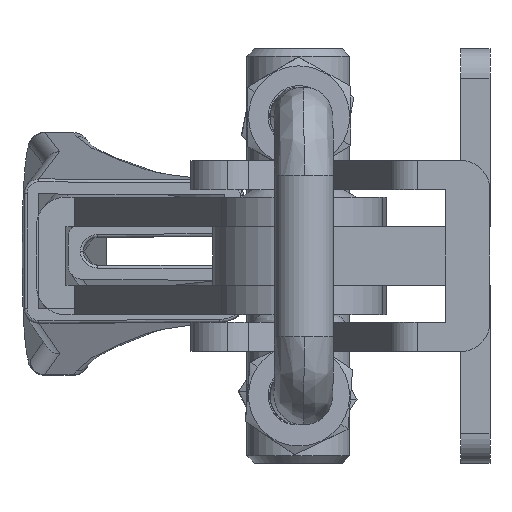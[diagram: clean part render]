
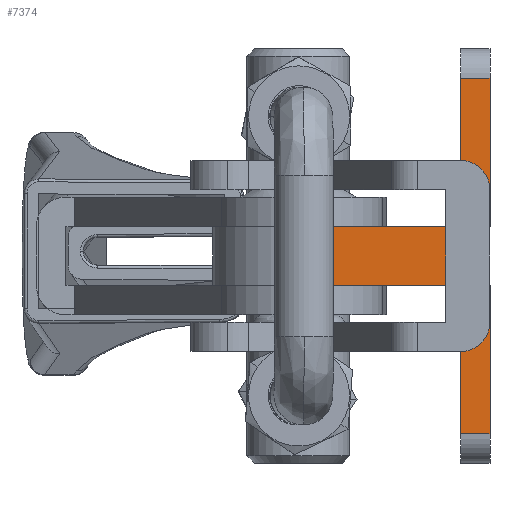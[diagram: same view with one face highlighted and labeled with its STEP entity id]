
A CAD part, left-side view. The second image highlights one B-rep face of the part: STEP entity #7374.
In plain terms, the highlighted planar face has unit normal (-1, 0, 0).
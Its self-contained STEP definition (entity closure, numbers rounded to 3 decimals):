
#178 = VERTEX_POINT ( 'NONE', #21883 ) ;
#408 = ORIENTED_EDGE ( 'NONE', *, *, #6360, .F. ) ;
#445 = VERTEX_POINT ( 'NONE', #19654 ) ;
#457 = VECTOR ( 'NONE', #21655, 1000. ) ;
#901 = VECTOR ( 'NONE', #10099, 1000. ) ;
#2187 = DIRECTION ( 'NONE',  ( 0., 1., 0. ) ) ;
#2330 = EDGE_CURVE ( 'NONE', #12929, #6125, #19856, .T. ) ;
#2575 = AXIS2_PLACEMENT_3D ( 'NONE', #21612, #12839, #9221 ) ;
#2675 = VERTEX_POINT ( 'NONE', #6945 ) ;
#2874 = DIRECTION ( 'NONE',  ( 0., 0., 1. ) ) ;
#2942 = EDGE_LOOP ( 'NONE', ( #12616, #13196, #18540, #12973, #408, #3047, #16563, #21558, #10386, #22818, #22796 ) ) ;
#2973 = EDGE_CURVE ( 'NONE', #12728, #13335, #5547, .T. ) ;
#3047 = ORIENTED_EDGE ( 'NONE', *, *, #5540, .F. ) ;
#3115 = EDGE_CURVE ( 'NONE', #19873, #2675, #15764, .T. ) ;
#3417 = LINE ( 'NONE', #4728, #901 ) ;
#4050 = AXIS2_PLACEMENT_3D ( 'NONE', #16869, #22452, #22217 ) ;
#4691 = DIRECTION ( 'NONE',  ( 0., 1., 0. ) ) ;
#4728 = CARTESIAN_POINT ( 'NONE',  ( 73.94, -1438.42, 2. ) ) ;
#5540 = EDGE_CURVE ( 'NONE', #178, #20322, #9424, .T. ) ;
#5547 = LINE ( 'NONE', #16634, #17706 ) ;
#5631 = VECTOR ( 'NONE', #7210, 1000. ) ;
#5726 = DIRECTION ( 'NONE',  ( 0., -1., 0. ) ) ;
#6033 = DIRECTION ( 'NONE',  ( 0., 0., 1. ) ) ;
#6125 = VERTEX_POINT ( 'NONE', #18320 ) ;
#6139 = LINE ( 'NONE', #8883, #457 ) ;
#6360 = EDGE_CURVE ( 'NONE', #20322, #12728, #15058, .T. ) ;
#6945 = CARTESIAN_POINT ( 'NONE',  ( 73.94, -1436.42, 0. ) ) ;
#7114 = FACE_OUTER_BOUND ( 'NONE', #2942, .T. ) ;
#7210 = DIRECTION ( 'NONE',  ( 0., 0., 1. ) ) ;
#7374 = ADVANCED_FACE ( 'NONE', ( #7114 ), #7998, .F. ) ;
#7420 = CARTESIAN_POINT ( 'NONE',  ( 73.94, -1436.42, -2. ) ) ;
#7433 = CARTESIAN_POINT ( 'NONE',  ( 73.94, -1438.42, -2. ) ) ;
#7566 = EDGE_CURVE ( 'NONE', #19873, #13335, #3417, .T. ) ;
#7998 = PLANE ( 'NONE',  #14390 ) ;
#8076 = DIRECTION ( 'NONE',  ( 0., -1., 0. ) ) ;
#8582 = VECTOR ( 'NONE', #8076, 1000. ) ;
#8600 = EDGE_CURVE ( 'NONE', #2675, #445, #15269, .T. ) ;
#8883 = CARTESIAN_POINT ( 'NONE',  ( 73.94, -1436.42, -14.1 ) ) ;
#9221 = DIRECTION ( 'NONE',  ( 0., 0., -1. ) ) ;
#9424 = LINE ( 'NONE', #19031, #8582 ) ;
#9648 = CARTESIAN_POINT ( 'NONE',  ( 73.94, -1438.42, -2. ) ) ;
#10099 = DIRECTION ( 'NONE',  ( 0., 0., 1. ) ) ;
#10237 = VECTOR ( 'NONE', #2874, 1000. ) ;
#10386 = ORIENTED_EDGE ( 'NONE', *, *, #12794, .F. ) ;
#10984 = CARTESIAN_POINT ( 'NONE',  ( 73.94, -1438.42, -12.1 ) ) ;
#11730 = CARTESIAN_POINT ( 'NONE',  ( 73.94, -1436.42, 2. ) ) ;
#12219 = VERTEX_POINT ( 'NONE', #13310 ) ;
#12329 = CARTESIAN_POINT ( 'NONE',  ( 73.94, -1438.42, -2. ) ) ;
#12473 = CARTESIAN_POINT ( 'NONE',  ( 73.94, -1438.42, 2. ) ) ;
#12616 = ORIENTED_EDGE ( 'NONE', *, *, #8600, .F. ) ;
#12728 = VERTEX_POINT ( 'NONE', #21050 ) ;
#12794 = EDGE_CURVE ( 'NONE', #6125, #21722, #6139, .T. ) ;
#12839 = DIRECTION ( 'NONE',  ( 1., 0., 0. ) ) ;
#12929 = VERTEX_POINT ( 'NONE', #10984 ) ;
#12973 = ORIENTED_EDGE ( 'NONE', *, *, #2973, .F. ) ;
#13058 = VECTOR ( 'NONE', #4691, 1000. ) ;
#13196 = ORIENTED_EDGE ( 'NONE', *, *, #3115, .F. ) ;
#13310 = CARTESIAN_POINT ( 'NONE',  ( 73.94, -1425.42, -2. ) ) ;
#13335 = VERTEX_POINT ( 'NONE', #23138 ) ;
#13950 = CARTESIAN_POINT ( 'NONE',  ( 73.94, -1438.42, -12.1 ) ) ;
#14180 = VECTOR ( 'NONE', #2187, 1000. ) ;
#14390 = AXIS2_PLACEMENT_3D ( 'NONE', #9648, #18584, #20469 ) ;
#15058 = LINE ( 'NONE', #18918, #10237 ) ;
#15269 = CIRCLE ( 'NONE', #2575, 2. ) ;
#15286 = LINE ( 'NONE', #20547, #17561 ) ;
#15764 = CIRCLE ( 'NONE', #4050, 2. ) ;
#16563 = ORIENTED_EDGE ( 'NONE', *, *, #19295, .F. ) ;
#16634 = CARTESIAN_POINT ( 'NONE',  ( 73.94, -1436.42, 12.1 ) ) ;
#16869 = CARTESIAN_POINT ( 'NONE',  ( 73.94, -1436.42, 2. ) ) ;
#17561 = VECTOR ( 'NONE', #6033, 1000. ) ;
#17706 = VECTOR ( 'NONE', #5726, 1000. ) ;
#17859 = LINE ( 'NONE', #7433, #14180 ) ;
#18320 = CARTESIAN_POINT ( 'NONE',  ( 73.94, -1436.42, -12.1 ) ) ;
#18540 = ORIENTED_EDGE ( 'NONE', *, *, #7566, .T. ) ;
#18584 = DIRECTION ( 'NONE',  ( 1., 0., 0. ) ) ;
#18817 = EDGE_CURVE ( 'NONE', #21722, #12219, #17859, .T. ) ;
#18918 = CARTESIAN_POINT ( 'NONE',  ( 73.94, -1436.42, 2. ) ) ;
#19031 = CARTESIAN_POINT ( 'NONE',  ( 73.94, -1438.42, 2. ) ) ;
#19295 = EDGE_CURVE ( 'NONE', #12219, #178, #15286, .T. ) ;
#19654 = CARTESIAN_POINT ( 'NONE',  ( 73.94, -1438.42, -2. ) ) ;
#19783 = LINE ( 'NONE', #12329, #5631 ) ;
#19856 = LINE ( 'NONE', #13950, #13058 ) ;
#19873 = VERTEX_POINT ( 'NONE', #12473 ) ;
#20322 = VERTEX_POINT ( 'NONE', #11730 ) ;
#20469 = DIRECTION ( 'NONE',  ( 0., 0., -1. ) ) ;
#20547 = CARTESIAN_POINT ( 'NONE',  ( 73.94, -1425.42, -2. ) ) ;
#20825 = EDGE_CURVE ( 'NONE', #12929, #445, #19783, .T. ) ;
#21050 = CARTESIAN_POINT ( 'NONE',  ( 73.94, -1436.42, 12.1 ) ) ;
#21558 = ORIENTED_EDGE ( 'NONE', *, *, #18817, .F. ) ;
#21612 = CARTESIAN_POINT ( 'NONE',  ( 73.94, -1436.42, -2. ) ) ;
#21655 = DIRECTION ( 'NONE',  ( 0., 0., 1. ) ) ;
#21722 = VERTEX_POINT ( 'NONE', #7420 ) ;
#21883 = CARTESIAN_POINT ( 'NONE',  ( 73.94, -1425.42, 2. ) ) ;
#22217 = DIRECTION ( 'NONE',  ( 0., 0., -1. ) ) ;
#22452 = DIRECTION ( 'NONE',  ( 1., 0., 0. ) ) ;
#22796 = ORIENTED_EDGE ( 'NONE', *, *, #20825, .T. ) ;
#22818 = ORIENTED_EDGE ( 'NONE', *, *, #2330, .F. ) ;
#23138 = CARTESIAN_POINT ( 'NONE',  ( 73.94, -1438.42, 12.1 ) ) ;
